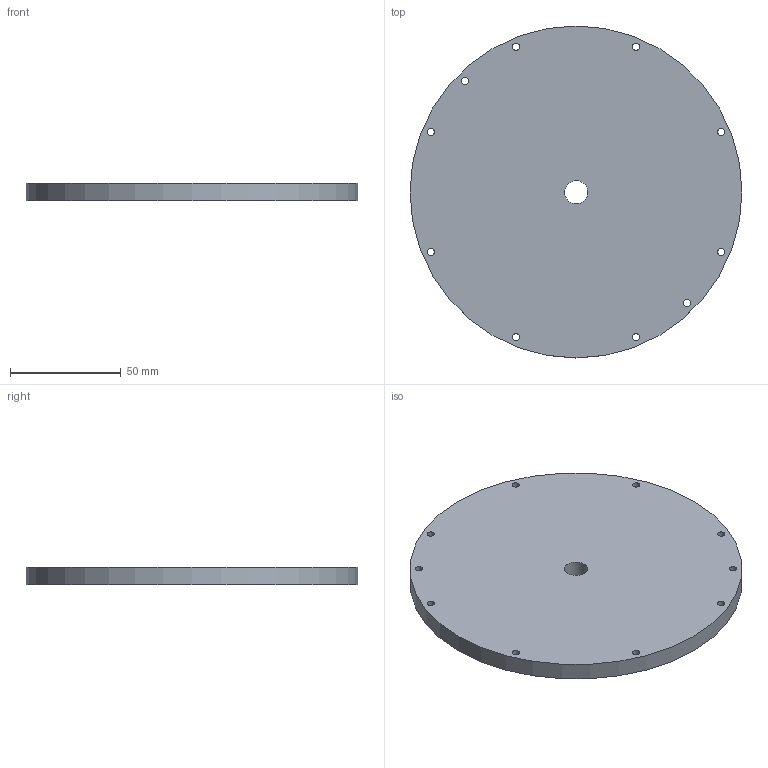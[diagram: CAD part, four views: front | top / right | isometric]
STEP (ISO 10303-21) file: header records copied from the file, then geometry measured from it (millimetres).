
FILE_DESCRIPTION(/* description */ (''),/* implementation_level */ '2;1');
FILE_NAME(/* name */ 'cap_150mm_alu_r1.step',/* time_stamp */ '2025-12-24T02:09:39+03:00',/* author */ (''),/* organization */ (''),/* preprocessor_version */ 'ST-DEVELOPER v20.1',/* originating_system */ 'Autodesk Translation Framework v14.21.0.0',/* authorisation */ '');
FILE_SCHEMA (('AUTOMOTIVE_DESIGN { 1 0 10303 214 3 1 1 }'));
Length unit declared in the file: millimetre
Products named in the file (1): Cap 150mm
Bounding box: 150 x 150 x 8 mm (x, y, z)
Volume: 127625.6 mm3; surface area: 44737.8 mm2
Topology: 1 solids, 1 shells, 42 faces, 108 edges, 72 vertices
Faces by surface type: cone 20, cylinder 16, plane 6
Full cylindrical faces by diameter (mm): 3.3 x10, 10.5 x1, 109.6 x1, 119.6 x1, 123.6 x1, 134 x1, 150 x1
Entity records: 1281 total; most frequent: DIRECTION 226, CARTESIAN_POINT 203, ORIENTED_EDGE 176, AXIS2_PLACEMENT_3D 95, EDGE_LOOP 88, EDGE_CURVE 88, VERTEX_POINT 72, CIRCLE 52
